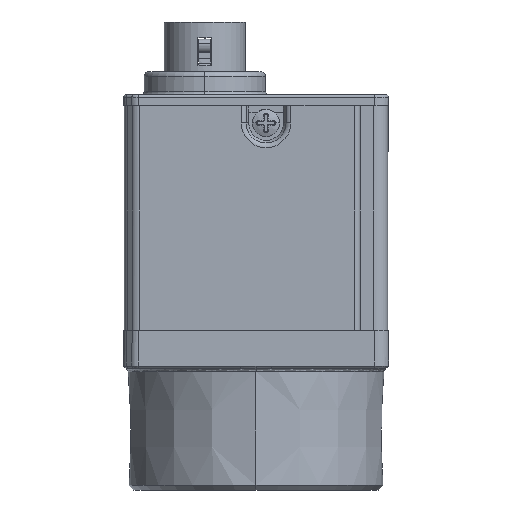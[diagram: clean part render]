
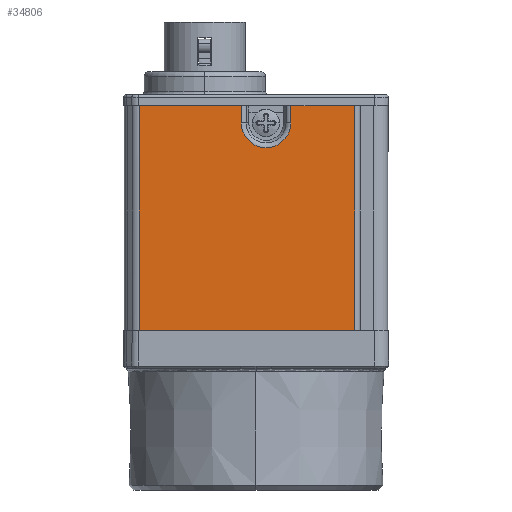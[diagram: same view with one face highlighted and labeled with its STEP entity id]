
A CAD part, left-side view. The second image highlights one B-rep face of the part: STEP entity #34806.
In plain terms, the highlighted planar face has unit normal (-1, 0, 0).
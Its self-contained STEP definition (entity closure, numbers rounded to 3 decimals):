
#1635=DIRECTION('',(0.,-1.,0.));
#1636=VECTOR('',#1635,23.586);
#1637=CARTESIAN_POINT('',(-14.5,12.786,4.2));
#1638=LINE('',#1637,#1636);
#1816=DIRECTION('',(0.,1.,0.));
#1817=VECTOR('',#1816,6.992);
#1818=CARTESIAN_POINT('',(-14.5,-10.8,28.8));
#1819=LINE('',#1818,#1817);
#1820=DIRECTION('',(0.,1.,0.));
#1821=VECTOR('',#1820,11.177);
#1822=CARTESIAN_POINT('',(-14.5,1.608,28.8));
#1823=LINE('',#1822,#1821);
#1890=DIRECTION('',(0.,0.,1.));
#1891=VECTOR('',#1890,24.6);
#1892=CARTESIAN_POINT('',(-14.5,-10.8,4.2));
#1893=LINE('',#1892,#1891);
#1894=DIRECTION('',(0.,0.,1.));
#1895=VECTOR('',#1894,24.6);
#1896=CARTESIAN_POINT('',(-14.5,12.786,4.2));
#1897=LINE('',#1896,#1895);
#1898=CARTESIAN_POINT('',(-14.5,-1.1,26.9));
#1899=DIRECTION('',(-1.,0.,0.));
#1900=DIRECTION('',(0.,1.,0.));
#1901=AXIS2_PLACEMENT_3D('',#1898,#1899,#1900);
#1908=DIRECTION('',(0.,0.,1.));
#1909=VECTOR('',#1908,1.9);
#1910=CARTESIAN_POINT('',(-14.5,1.608,26.9));
#1911=LINE('',#1910,#1909);
#2062=DIRECTION('',(0.,0.,-1.));
#2063=VECTOR('',#2062,1.9);
#2064=CARTESIAN_POINT('',(-14.5,-3.808,28.8));
#2065=LINE('',#2064,#2063);
#29695=CARTESIAN_POINT('',(-14.5,1.608,26.9));
#29696=CARTESIAN_POINT('',(-14.5,-3.808,26.9));
#29697=VERTEX_POINT('',#29695);
#29698=VERTEX_POINT('',#29696);
#29711=CARTESIAN_POINT('',(-14.5,12.786,4.2));
#29712=CARTESIAN_POINT('',(-14.5,-10.8,4.2));
#29713=VERTEX_POINT('',#29711);
#29714=VERTEX_POINT('',#29712);
#30410=CARTESIAN_POINT('',(-14.5,-10.8,28.8));
#30411=CARTESIAN_POINT('',(-14.5,-3.808,28.8));
#30412=VERTEX_POINT('',#30410);
#30413=VERTEX_POINT('',#30411);
#30414=CARTESIAN_POINT('',(-14.5,1.608,28.8));
#30415=CARTESIAN_POINT('',(-14.5,12.786,28.8));
#30416=VERTEX_POINT('',#30414);
#30417=VERTEX_POINT('',#30415);
#34788=CARTESIAN_POINT('',(-14.5,0.993,16.5));
#34789=DIRECTION('',(1.,0.,0.));
#34790=DIRECTION('',(0.,1.,0.));
#34791=AXIS2_PLACEMENT_3D('',#34788,#34789,#34790);
#34792=PLANE('',#34791);
#34793=ORIENTED_EDGE('',*,*,#34640,.F.);
#34794=ORIENTED_EDGE('',*,*,#34774,.F.);
#34795=ORIENTED_EDGE('',*,*,#34259,.F.);
#34796=ORIENTED_EDGE('',*,*,#34619,.T.);
#34797=ORIENTED_EDGE('',*,*,#34643,.F.);
#34799=ORIENTED_EDGE('',*,*,#34798,.F.);
#34801=ORIENTED_EDGE('',*,*,#34800,.T.);
#34803=ORIENTED_EDGE('',*,*,#34802,.F.);
#34804=EDGE_LOOP('',(#34793,#34794,#34795,#34796,#34797,#34799,#34801,#34803));
#34805=FACE_OUTER_BOUND('',#34804,.F.);
#34806=ADVANCED_FACE('',(#34805),#34792,.F.);
#1902=CIRCLE('',#1901,2.708);
#34259=EDGE_CURVE('',#29713,#29714,#1638,.T.);
#34619=EDGE_CURVE('',#29713,#30417,#1897,.T.);
#34640=EDGE_CURVE('',#30412,#30413,#1819,.T.);
#34643=EDGE_CURVE('',#30416,#30417,#1823,.T.);
#34774=EDGE_CURVE('',#29714,#30412,#1893,.T.);
#34798=EDGE_CURVE('',#29697,#30416,#1911,.T.);
#34800=EDGE_CURVE('',#29697,#29698,#1902,.T.);
#34802=EDGE_CURVE('',#30413,#29698,#2065,.T.);
